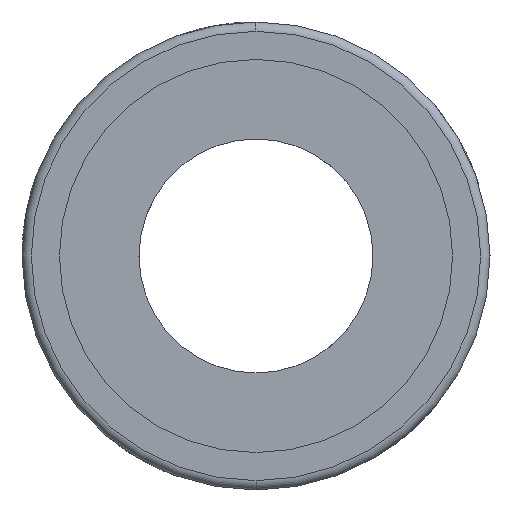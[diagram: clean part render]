
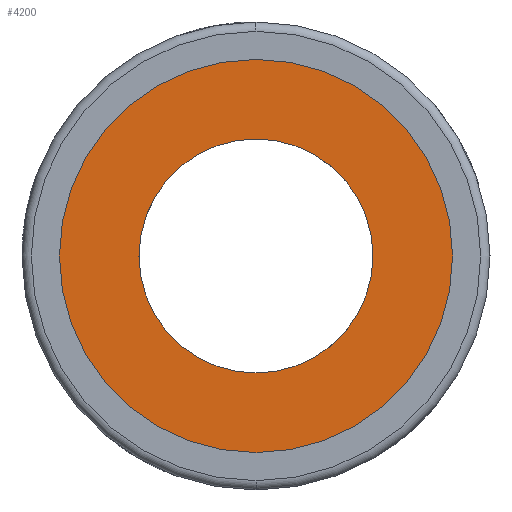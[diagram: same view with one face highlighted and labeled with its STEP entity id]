
A CAD part, left-side view. The second image highlights one B-rep face of the part: STEP entity #4200.
In plain terms, the highlighted planar face has unit normal (-1, 0, 0).
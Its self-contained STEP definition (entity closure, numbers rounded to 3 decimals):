
#1590 = EDGE_CURVE('',#1591,#1593,#1595,.T.);
#1591 = VERTEX_POINT('',#1592);
#1592 = CARTESIAN_POINT('',(-10.78,0.,-5.04));
#1593 = VERTEX_POINT('',#1594);
#1594 = CARTESIAN_POINT('',(-10.78,0.,5.04));
#1595 = SURFACE_CURVE('',#1596,(#1601,#1613),.PCURVE_S1.);
#1596 = CIRCLE('',#1597,5.04);
#1597 = AXIS2_PLACEMENT_3D('',#1598,#1599,#1600);
#1598 = CARTESIAN_POINT('',(-10.78,0.,0.));
#1599 = DIRECTION('',(1.,0.,0.));
#1600 = DIRECTION('',(0.,0.,1.));
#1601 = PCURVE('',#1602,#1607);
#1602 = CYLINDRICAL_SURFACE('',#1603,5.04);
#1603 = AXIS2_PLACEMENT_3D('',#1604,#1605,#1606);
#1604 = CARTESIAN_POINT('',(-10.56,0.,0.));
#1605 = DIRECTION('',(-1.,0.,0.));
#1606 = DIRECTION('',(0.,0.,1.));
#1607 = DEFINITIONAL_REPRESENTATION('',(#1608),#1612);
#1608 = LINE('',#1609,#1610);
#1609 = CARTESIAN_POINT('',(6.283,0.22));
#1610 = VECTOR('',#1611,1.);
#1611 = DIRECTION('',(-1.,0.));
#1612 = ( GEOMETRIC_REPRESENTATION_CONTEXT(2) 
PARAMETRIC_REPRESENTATION_CONTEXT() REPRESENTATION_CONTEXT('2D SPACE',''
  ) );
#1613 = PCURVE('',#1614,#1619);
#1614 = PLANE('',#1615);
#1615 = AXIS2_PLACEMENT_3D('',#1616,#1617,#1618);
#1616 = CARTESIAN_POINT('',(-10.78,0.,0.));
#1617 = DIRECTION('',(-1.,0.,0.));
#1618 = DIRECTION('',(0.,0.,1.));
#1619 = DEFINITIONAL_REPRESENTATION('',(#1620),#1628);
#1620 = ( BOUNDED_CURVE() B_SPLINE_CURVE(2,(#1621,#1622,#1623,#1624,
#1625,#1626,#1627),.UNSPECIFIED.,.T.,.F.) B_SPLINE_CURVE_WITH_KNOTS((1,2
    ,2,2,2,1),(-2.094,0.,2.094,4.189,
6.283,8.378),.UNSPECIFIED.) CURVE() 
GEOMETRIC_REPRESENTATION_ITEM() RATIONAL_B_SPLINE_CURVE((1.,0.5,1.,0.5,
1.,0.5,1.)) REPRESENTATION_ITEM('') );
#1621 = CARTESIAN_POINT('',(5.04,0.));
#1622 = CARTESIAN_POINT('',(5.04,-8.73));
#1623 = CARTESIAN_POINT('',(-2.52,-4.365));
#1624 = CARTESIAN_POINT('',(-10.08,0.));
#1625 = CARTESIAN_POINT('',(-2.52,4.365));
#1626 = CARTESIAN_POINT('',(5.04,8.73));
#1627 = CARTESIAN_POINT('',(5.04,0.));
#1628 = ( GEOMETRIC_REPRESENTATION_CONTEXT(2) 
PARAMETRIC_REPRESENTATION_CONTEXT() REPRESENTATION_CONTEXT('2D SPACE',''
  ) );
#1646 = CYLINDRICAL_SURFACE('',#1647,5.04);
#1647 = AXIS2_PLACEMENT_3D('',#1648,#1649,#1650);
#1648 = CARTESIAN_POINT('',(-10.56,0.,0.));
#1649 = DIRECTION('',(-1.,0.,0.));
#1650 = DIRECTION('',(0.,0.,1.));
#1749 = CYLINDRICAL_SURFACE('',#1750,3.);
#1750 = AXIS2_PLACEMENT_3D('',#1751,#1752,#1753);
#1751 = CARTESIAN_POINT('',(0.,0.,0.));
#1752 = DIRECTION('',(1.,0.,0.));
#1753 = DIRECTION('',(0.,0.,-1.));
#2369 = EDGE_CURVE('',#2370,#2372,#2374,.T.);
#2370 = VERTEX_POINT('',#2371);
#2371 = CARTESIAN_POINT('',(-10.78,0.,-3.));
#2372 = VERTEX_POINT('',#2373);
#2373 = CARTESIAN_POINT('',(-10.78,0.,3.));
#2374 = SURFACE_CURVE('',#2375,(#2380,#2387),.PCURVE_S1.);
#2375 = CIRCLE('',#2376,3.);
#2376 = AXIS2_PLACEMENT_3D('',#2377,#2378,#2379);
#2377 = CARTESIAN_POINT('',(-10.78,0.,0.));
#2378 = DIRECTION('',(1.,-0.,0.));
#2379 = DIRECTION('',(0.,0.,-1.));
#2380 = PCURVE('',#1749,#2381);
#2381 = DEFINITIONAL_REPRESENTATION('',(#2382),#2386);
#2382 = LINE('',#2383,#2384);
#2383 = CARTESIAN_POINT('',(0.,-10.78));
#2384 = VECTOR('',#2385,1.);
#2385 = DIRECTION('',(1.,0.));
#2386 = ( GEOMETRIC_REPRESENTATION_CONTEXT(2) 
PARAMETRIC_REPRESENTATION_CONTEXT() REPRESENTATION_CONTEXT('2D SPACE',''
  ) );
#2387 = PCURVE('',#1614,#2388);
#2388 = DEFINITIONAL_REPRESENTATION('',(#2389),#2397);
#2389 = ( BOUNDED_CURVE() B_SPLINE_CURVE(2,(#2390,#2391,#2392,#2393,
#2394,#2395,#2396),.UNSPECIFIED.,.T.,.F.) B_SPLINE_CURVE_WITH_KNOTS((1,2
    ,2,2,2,1),(-2.094,0.,2.094,4.189,
6.283,8.378),.UNSPECIFIED.) CURVE() 
GEOMETRIC_REPRESENTATION_ITEM() RATIONAL_B_SPLINE_CURVE((1.,0.5,1.,0.5,
1.,0.5,1.)) REPRESENTATION_ITEM('') );
#2390 = CARTESIAN_POINT('',(-3.,0.));
#2391 = CARTESIAN_POINT('',(-3.,5.196));
#2392 = CARTESIAN_POINT('',(1.5,2.598));
#2393 = CARTESIAN_POINT('',(6.,0.));
#2394 = CARTESIAN_POINT('',(1.5,-2.598));
#2395 = CARTESIAN_POINT('',(-3.,-5.196));
#2396 = CARTESIAN_POINT('',(-3.,0.));
#2397 = ( GEOMETRIC_REPRESENTATION_CONTEXT(2) 
PARAMETRIC_REPRESENTATION_CONTEXT() REPRESENTATION_CONTEXT('2D SPACE',''
  ) );
#2415 = CYLINDRICAL_SURFACE('',#2416,3.);
#2416 = AXIS2_PLACEMENT_3D('',#2417,#2418,#2419);
#2417 = CARTESIAN_POINT('',(0.,0.,0.));
#2418 = DIRECTION('',(1.,0.,0.));
#2419 = DIRECTION('',(0.,0.,-1.));
#2826 = EDGE_CURVE('',#2372,#2370,#2827,.T.);
#2827 = SURFACE_CURVE('',#2828,(#2833,#2840),.PCURVE_S1.);
#2828 = CIRCLE('',#2829,3.);
#2829 = AXIS2_PLACEMENT_3D('',#2830,#2831,#2832);
#2830 = CARTESIAN_POINT('',(-10.78,0.,0.));
#2831 = DIRECTION('',(1.,-0.,0.));
#2832 = DIRECTION('',(0.,0.,-1.));
#2833 = PCURVE('',#2415,#2834);
#2834 = DEFINITIONAL_REPRESENTATION('',(#2835),#2839);
#2835 = LINE('',#2836,#2837);
#2836 = CARTESIAN_POINT('',(0.,-10.78));
#2837 = VECTOR('',#2838,1.);
#2838 = DIRECTION('',(1.,0.));
#2839 = ( GEOMETRIC_REPRESENTATION_CONTEXT(2) 
PARAMETRIC_REPRESENTATION_CONTEXT() REPRESENTATION_CONTEXT('2D SPACE',''
  ) );
#2840 = PCURVE('',#1614,#2841);
#2841 = DEFINITIONAL_REPRESENTATION('',(#2842),#2850);
#2842 = ( BOUNDED_CURVE() B_SPLINE_CURVE(2,(#2843,#2844,#2845,#2846,
#2847,#2848,#2849),.UNSPECIFIED.,.T.,.F.) B_SPLINE_CURVE_WITH_KNOTS((1,2
    ,2,2,2,1),(-2.094,0.,2.094,4.189,
6.283,8.378),.UNSPECIFIED.) CURVE() 
GEOMETRIC_REPRESENTATION_ITEM() RATIONAL_B_SPLINE_CURVE((1.,0.5,1.,0.5,
1.,0.5,1.)) REPRESENTATION_ITEM('') );
#2843 = CARTESIAN_POINT('',(-3.,0.));
#2844 = CARTESIAN_POINT('',(-3.,5.196));
#2845 = CARTESIAN_POINT('',(1.5,2.598));
#2846 = CARTESIAN_POINT('',(6.,0.));
#2847 = CARTESIAN_POINT('',(1.5,-2.598));
#2848 = CARTESIAN_POINT('',(-3.,-5.196));
#2849 = CARTESIAN_POINT('',(-3.,0.));
#2850 = ( GEOMETRIC_REPRESENTATION_CONTEXT(2) 
PARAMETRIC_REPRESENTATION_CONTEXT() REPRESENTATION_CONTEXT('2D SPACE',''
  ) );
#4200 = ADVANCED_FACE('',(#4201,#4205),#1614,.T.);
#4201 = FACE_BOUND('',#4202,.T.);
#4202 = EDGE_LOOP('',(#4203,#4204));
#4203 = ORIENTED_EDGE('',*,*,#2826,.T.);
#4204 = ORIENTED_EDGE('',*,*,#2369,.T.);
#4205 = FACE_BOUND('',#4206,.T.);
#4206 = EDGE_LOOP('',(#4207,#4233));
#4207 = ORIENTED_EDGE('',*,*,#4208,.F.);
#4208 = EDGE_CURVE('',#1593,#1591,#4209,.T.);
#4209 = SURFACE_CURVE('',#4210,(#4215,#4226),.PCURVE_S1.);
#4210 = CIRCLE('',#4211,5.04);
#4211 = AXIS2_PLACEMENT_3D('',#4212,#4213,#4214);
#4212 = CARTESIAN_POINT('',(-10.78,0.,0.));
#4213 = DIRECTION('',(1.,0.,0.));
#4214 = DIRECTION('',(0.,0.,1.));
#4215 = PCURVE('',#1614,#4216);
#4216 = DEFINITIONAL_REPRESENTATION('',(#4217),#4225);
#4217 = ( BOUNDED_CURVE() B_SPLINE_CURVE(2,(#4218,#4219,#4220,#4221,
#4222,#4223,#4224),.UNSPECIFIED.,.T.,.F.) B_SPLINE_CURVE_WITH_KNOTS((1,2
    ,2,2,2,1),(-2.094,0.,2.094,4.189,
6.283,8.378),.UNSPECIFIED.) CURVE() 
GEOMETRIC_REPRESENTATION_ITEM() RATIONAL_B_SPLINE_CURVE((1.,0.5,1.,0.5,
1.,0.5,1.)) REPRESENTATION_ITEM('') );
#4218 = CARTESIAN_POINT('',(5.04,0.));
#4219 = CARTESIAN_POINT('',(5.04,-8.73));
#4220 = CARTESIAN_POINT('',(-2.52,-4.365));
#4221 = CARTESIAN_POINT('',(-10.08,0.));
#4222 = CARTESIAN_POINT('',(-2.52,4.365));
#4223 = CARTESIAN_POINT('',(5.04,8.73));
#4224 = CARTESIAN_POINT('',(5.04,0.));
#4225 = ( GEOMETRIC_REPRESENTATION_CONTEXT(2) 
PARAMETRIC_REPRESENTATION_CONTEXT() REPRESENTATION_CONTEXT('2D SPACE',''
  ) );
#4226 = PCURVE('',#1646,#4227);
#4227 = DEFINITIONAL_REPRESENTATION('',(#4228),#4232);
#4228 = LINE('',#4229,#4230);
#4229 = CARTESIAN_POINT('',(6.283,0.22));
#4230 = VECTOR('',#4231,1.);
#4231 = DIRECTION('',(-1.,0.));
#4232 = ( GEOMETRIC_REPRESENTATION_CONTEXT(2) 
PARAMETRIC_REPRESENTATION_CONTEXT() REPRESENTATION_CONTEXT('2D SPACE',''
  ) );
#4233 = ORIENTED_EDGE('',*,*,#1590,.F.);
